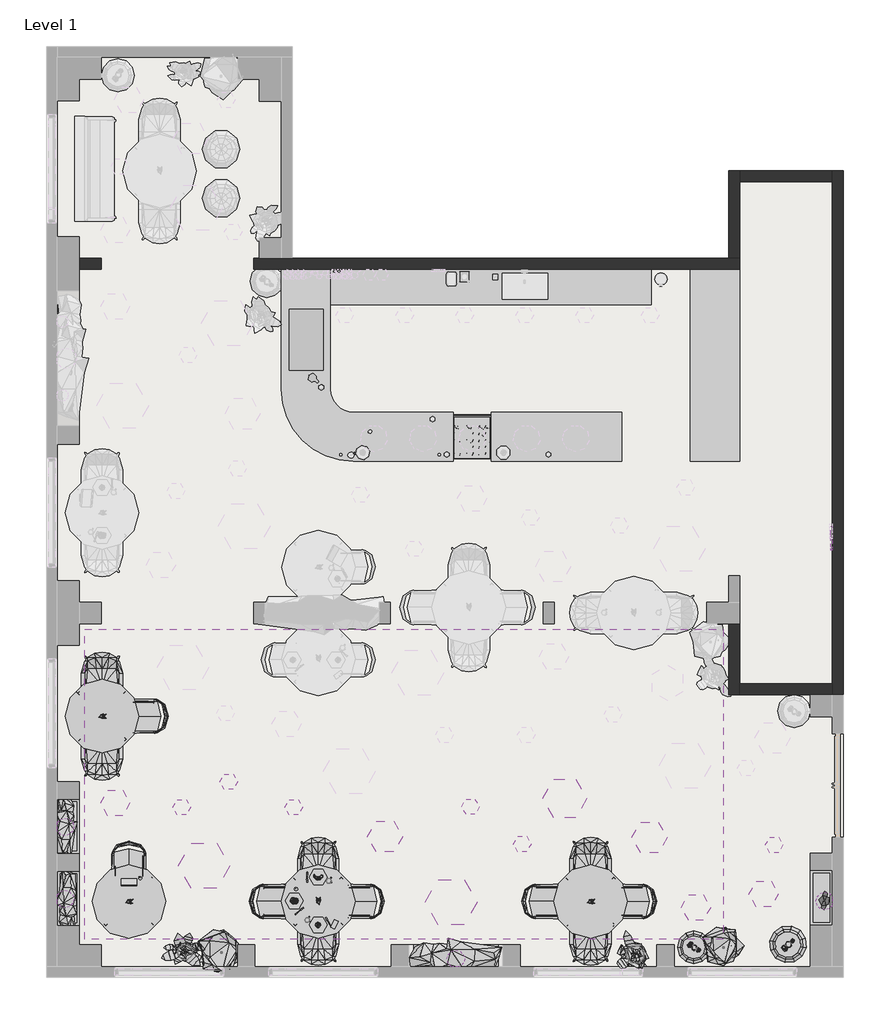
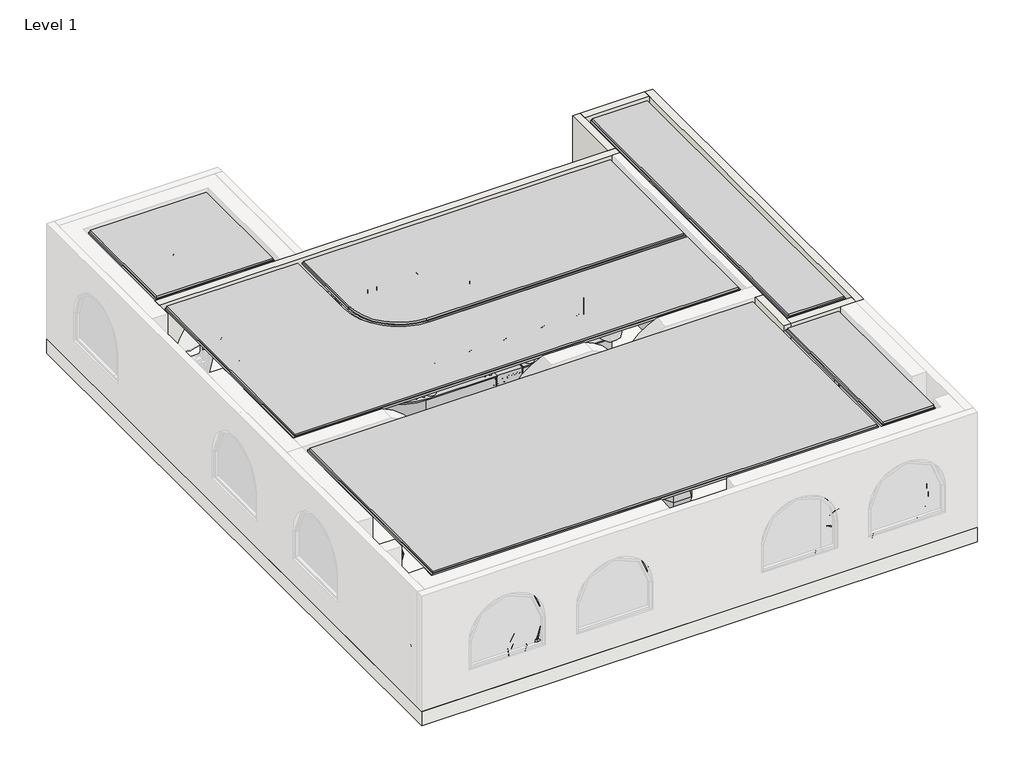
# One storey, part 2 of 5: 69 geographic elements, 6 walls, 4 proxies, 1 slab.
"""IFC4 building model written with IfcOpenShell, lengths in millimetres."""

from ifc_helpers import new_model, si_unit, frame, origin, origin_with_axes, place, context, project, spatial, polyline, circle_curve, outline, extrude, faceted_brep, transform, mapped, element, save
from ifc_brep_helpers import plane_surface, revolved_surface, advanced_brep
from components import generic_models_1_generic_models_1_eb2977bd, generic_models_2_generic_models_2_8f71c89f, generic_models_3_generic_models_3_f53c9cee, generic_models_4_generic_models_4_ffab7143, geographic_element_8ca766f1, geographic_element_748f541f, geographic_element_7c99d2c4, geographic_element_ad5755f3, geographic_element_266ae1ca, geographic_element_bfbed8a8, geographic_element_5726619b, geographic_element_eaedea96, geographic_element_e5fee6ec, geographic_element_ab19c15e, geographic_element_721f793b, geographic_element_a0fb3aef, geographic_element_8a26e685, geographic_element_bc1c03e3, geographic_element_5908e057, enscape_assetdefinition_armchair_052_outdoor_enscape_f294b56b, enscape_assetdefinition_armchair_052_outdoor_enscape_d5c26a59, enscape_assetdefinition_basket_003_enscape_assetdefinition_82603852, enscape_assetdefinition_basket_003_enscape_assetdefinition_e8d1e2aa, enscape_assetdefinition_basket_004_enscape_assetdefinition_14d161dd, enscape_assetdefinition_basket_004_enscape_assetdefinition_f91bcb0a, enscape_assetdefinition_chair_005_enscape_assetdefinition_31156a69, enscape_assetdefinition_cup_002_coffee_enscape_aa947409, enscape_assetdefinition_floor_lamp_016_enscape_4e544922, enscape_assetdefinition_floor_lamp_016_enscape_5eb83b77, enscape_assetdefinition_floor_lamp_016_enscape_559c5179, enscape_assetdefinition_floor_lamp_016_enscape_838fbf4e, enscape_assetdefinition_floor_lamp_016_enscape_ae26f4ef, enscape_assetdefinition_glass_002_cocktail_enscape_3d217cfa, enscape_assetdefinition_plate_002_flat_enscape_c81c6526, enscape_assetdefinition_tablet_005_enscape_assetdefinition_b19993bc, enscape_assetdefinition_vase_048_paper_palm_enscape_02403a3f

model = new_model("IFC4")

# Units and contexts
model_context = context("Model", 3, world=origin())
ifc_project = project(units=[si_unit("LENGTHUNIT", "METRE", prefix="MILLI")], contexts=[model_context])

# Site, building, storey
site = spatial("IfcSite", under=ifc_project)
building = spatial("IfcBuilding", under=site)
storey = spatial("IfcBuildingStorey", under=building, Name="Level 1", Elevation=0.0)

# Proxies
placement = place(None, origin())
generic_models_1_generic_models_1_shape = generic_models_1_generic_models_1_eb2977bd(model_context)
element("IfcBuildingElementProxy", 1, Name="Generic Models 1 : Generic Models 1", ObjectType="Generic Models 1 : Generic Models 1", at=placement, inside=storey, context=model_context, shape_type="MappedRepresentation", body=[
    mapped(generic_models_1_generic_models_1_shape, transform((0.0, 0.0, 0.0), x_axis=(1.0, 0.0, 0.0), y_axis=(0.0, 1.0, 0.0), z_axis=(0.0, 0.0, 1.0))),
])
generic_models_2_generic_models_2_shape = generic_models_2_generic_models_2_8f71c89f(model_context)
element("IfcBuildingElementProxy", 2, Name="Generic Models 2 : Generic Models 2", ObjectType="Generic Models 2 : Generic Models 2", at=placement, inside=storey, context=model_context, shape_type="MappedRepresentation", body=[
    mapped(generic_models_2_generic_models_2_shape, transform((0.0, 0.0, 0.0), x_axis=(1.0, 0.0, 0.0), y_axis=(0.0, 1.0, 0.0), z_axis=(0.0, 0.0, 1.0))),
])
generic_models_3_generic_models_3_shape = generic_models_3_generic_models_3_f53c9cee(model_context)
element("IfcBuildingElementProxy", 3, Name="Generic Models 3 : Generic Models 3", ObjectType="Generic Models 3 : Generic Models 3", at=placement, inside=storey, context=model_context, shape_type="MappedRepresentation", body=[
    mapped(generic_models_3_generic_models_3_shape, transform((0.0, 0.0, 0.0), x_axis=(1.0, 0.0, 0.0), y_axis=(0.0, 1.0, 0.0), z_axis=(0.0, 0.0, 1.0))),
])
generic_models_4_generic_models_4_shape = generic_models_4_generic_models_4_ffab7143(model_context)
element("IfcBuildingElementProxy", 4, Name="Generic Models 4 : Generic Models 4", ObjectType="Generic Models 4 : Generic Models 4", at=placement, inside=storey, context=model_context, shape_type="MappedRepresentation", body=[
    mapped(generic_models_4_generic_models_4_shape, transform((0.0, 0.0, 0.0), x_axis=(1.0, 0.0, 0.0), y_axis=(0.0, 1.0, 0.0), z_axis=(0.0, 0.0, 1.0))),
])

# Geographic elements
geographic_element_shape = geographic_element_8ca766f1(model_context)
element("IfcGeographicElement", 5, ObjectType="Enscape AssetDefinition - Food 027 Pastry : Enscape AssetDefinition - Food 027 Pastry", at=placement, inside=storey, context=model_context, shape_type="MappedRepresentation", body=[
    mapped(geographic_element_shape, transform((16407.6950183, -2706.9076207, 765.0), x_axis=(1.0, 0.0, 0.0), y_axis=(0.0, 1.0, 0.0), z_axis=(0.0, 0.0, 1.0))),
])
geographic_element_2_shape = geographic_element_748f541f(model_context)
element("IfcGeographicElement", 6, ObjectType="Enscape AssetDefinition - Food 024 Pastry : Enscape AssetDefinition - Food 024 Pastry", at=placement, inside=storey, context=model_context, shape_type="MappedRepresentation", body=[
    mapped(geographic_element_2_shape, transform((16414.4580656, -1830.095212, 768.0), x_axis=(1.0, 0.0, 0.0), y_axis=(0.0, 1.0, 0.0), z_axis=(0.0, 0.0, 1.0))),
])
geographic_element_3_shape = geographic_element_7c99d2c4(model_context)
element("IfcGeographicElement", 7, ObjectType="Enscape AssetDefinition - Food 019 Pastry : Enscape AssetDefinition - Food 019 Pastry", at=placement, inside=storey, context=model_context, shape_type="MappedRepresentation", body=[
    mapped(geographic_element_3_shape, transform((15976.0518612, -2267.859418, 765.0), x_axis=(1.0, 0.0, 0.0), y_axis=(0.0, 1.0, 0.0), z_axis=(0.0, 0.0, 1.0))),
])
geographic_element_4_shape = geographic_element_ad5755f3(model_context)
element("IfcGeographicElement", 8, ObjectType="Enscape AssetDefinition - Ease Round Table : Enscape AssetDefinition - Ease Round Table", at=placement, inside=storey, context=model_context, shape_type="MappedRepresentation", body=[
    mapped(geographic_element_4_shape, transform((12451.4780503, 1119.6966722, 0.0), x_axis=(1.0, 0.0, 0.0), y_axis=(0.0, 1.0, 0.0), z_axis=(0.0, 0.0, 1.0))),
])
element("IfcGeographicElement", 9, ObjectType="Enscape AssetDefinition - Ease Round Table : Enscape AssetDefinition - Ease Round Table", at=placement, inside=storey, context=model_context, shape_type="MappedRepresentation", body=[
    mapped(geographic_element_4_shape, transform((16414.4580656, -2277.4640636, 0.0), x_axis=(1.0, 0.0, 0.0), y_axis=(0.0, 1.0, 0.0), z_axis=(0.0, 0.0, 1.0))),
])
element("IfcGeographicElement", 10, ObjectType="Enscape AssetDefinition - Ease Round Table : Enscape AssetDefinition - Ease Round Table", at=placement, inside=storey, context=model_context, shape_type="MappedRepresentation", body=[
    mapped(geographic_element_4_shape, transform((21404.7440445, -2277.4640636, 0.0), x_axis=(1.0, 0.0, 0.0), y_axis=(0.0, 1.0, 0.0), z_axis=(0.0, 0.0, 1.0))),
])
element("IfcGeographicElement", 11, ObjectType="Enscape AssetDefinition - Ease Round Table : Enscape AssetDefinition - Ease Round Table", at=placement, inside=storey, context=model_context, shape_type="MappedRepresentation", body=[
    mapped(geographic_element_4_shape, transform((12945.1172493, -2277.4640636, 0.0), x_axis=(-1.0, 0.0, 0.0), y_axis=(0.0, -1.0, 0.0), z_axis=(0.0, 0.0, 1.0))),
])
geographic_element_5_shape = geographic_element_266ae1ca(model_context)
element("IfcGeographicElement", 12, ObjectType="Enscape AssetDefinition - Potted Plant 250 Snake Plant : Enscape AssetDefinition - Potted Plant 250 Snake Plant", at=placement, inside=storey, context=model_context, shape_type="MappedRepresentation", body=[
    mapped(geographic_element_5_shape, transform((18951.3231096, -3268.9374621, 590.0), x_axis=(0.0, 1.0, 0.0), y_axis=(-1.0, 0.0, 0.0), z_axis=(0.0, 0.0, 1.0))),
])
geographic_element_6_shape = geographic_element_bfbed8a8(model_context)
element("IfcGeographicElement", 13, ObjectType="Enscape AssetDefinition - Potted Plant 250 Snake Plant : Enscape AssetDefinition - Potted Plant 250 Snake Plant 4", at=placement, inside=storey, context=model_context, shape_type="MappedRepresentation", body=[
    mapped(geographic_element_6_shape, transform((11781.7394271, -922.8701885, 554.8985655), x_axis=(1.0, 0.0, 0.0), y_axis=(0.0, 1.0, 0.0), z_axis=(0.0, 0.0, 1.0))),
])
element("IfcGeographicElement", 14, ObjectType="Enscape AssetDefinition - Potted Plant 250 Snake Plant : Enscape AssetDefinition - Potted Plant 250 Snake Plant 4", at=placement, inside=storey, context=model_context, shape_type="MappedRepresentation", body=[
    mapped(geographic_element_6_shape, transform((11821.7394271, -2242.8701885, 554.8985655), x_axis=(-1.0, 0.0, 0.0), y_axis=(0.0, -1.0, 0.0), z_axis=(0.0, 0.0, 1.0))),
])
geographic_element_7_shape = geographic_element_5726619b(model_context)
element("IfcGeographicElement", 15, ObjectType="Enscape AssetDefinition - Potted Plant 132 Cactus : Enscape AssetDefinition - Potted Plant 132 Cactus 2", at=placement, inside=storey, context=model_context, shape_type="MappedRepresentation", body=[
    mapped(geographic_element_7_shape, transform((25689.064034, -2261.4063526, 395.0), x_axis=(0.0, 1.0, 0.0), y_axis=(-1.0, 0.0, 0.0), z_axis=(0.0, 0.0, 1.0))),
])
geographic_element_8_shape = geographic_element_eaedea96(model_context)
element("IfcGeographicElement", 16, ObjectType="Enscape AssetDefinition - Potted Plant 002 Cactus : Enscape AssetDefinition - Potted Plant 002 Cactus", at=placement, inside=storey, context=model_context, shape_type="MappedRepresentation", body=[
    mapped(geographic_element_8_shape, transform((23298.7213762, -3116.0127286, 0.0), x_axis=(0.8191520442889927, -0.5735764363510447, 0.0), y_axis=(0.5735764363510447, 0.8191520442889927, 0.0), z_axis=(0.0, 0.0, 1.0))),
])
geographic_element_9_shape = geographic_element_e5fee6ec(model_context)
element("IfcGeographicElement", 17, ObjectType="Enscape AssetDefinition - Potted Plant 119 Strelitzia Nicolai : Enscape AssetDefinition - Potted Plant 119 Strelitzia Nicolai", at=placement, inside=storey, context=model_context, shape_type="MappedRepresentation", body=[
    mapped(geographic_element_9_shape, transform((22223.7182313, -3246.4042959, 0.0), x_axis=(-0.32556815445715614, 0.9455185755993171, 0.0), y_axis=(-0.9455185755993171, -0.32556815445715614, 0.0), z_axis=(0.0, 0.0, 1.0))),
])
geographic_element_10_shape = geographic_element_ab19c15e(model_context)
element("IfcGeographicElement", 18, ObjectType="Enscape AssetDefinition - Potted Plant 024 Fiddle-Leaf Fig : Enscape AssetDefinition - Potted Plant 024 Fiddle-Leaf Fig 2", at=placement, inside=storey, context=model_context, shape_type="MappedRepresentation", body=[
    mapped(geographic_element_10_shape, transform((14638.659147, -3209.6399174, 0.0), x_axis=(1.0, 0.0, 0.0), y_axis=(0.0, 1.0, 0.0), z_axis=(0.0, 0.0, 1.0))),
])
geographic_element_11_shape = geographic_element_721f793b(model_context)
element("IfcGeographicElement", 19, ObjectType="Enscape AssetDefinition - Potted Plant 002 Cactus : Enscape AssetDefinition - Potted Plant 002 Cactus 2", at=placement, inside=storey, context=model_context, shape_type="MappedRepresentation", body=[
    mapped(geographic_element_11_shape, transform((25023.8130709, -3072.9981873, 0.0), x_axis=(0.7193398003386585, 0.6946583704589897, 0.0), y_axis=(-0.6946583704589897, 0.7193398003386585, 0.0), z_axis=(0.0, 0.0, 1.0))),
])
geographic_element_12_shape = geographic_element_a0fb3aef(model_context)
element("IfcGeographicElement", 20, ObjectType="Enscape AssetDefinition - Potted Plant 119 Strelitzia Nicolai : Enscape AssetDefinition - Potted Plant 119 Strelitzia Nicolai 4", at=placement, inside=storey, context=model_context, shape_type="MappedRepresentation", body=[
    mapped(geographic_element_12_shape, transform((13974.8004368, -3204.9245779, 0.0), x_axis=(0.8644815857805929, -0.5026644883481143, 0.0), y_axis=(0.5026644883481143, 0.8644815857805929, 0.0), z_axis=(0.0, 0.0, 1.0))),
])
geographic_element_13_shape = geographic_element_8a26e685(model_context)
element("IfcGeographicElement", 21, ObjectType="Enscape AssetDefinition - Potted Plant 024 Fiddle-Leaf Fig : Enscape AssetDefinition - Potted Plant 024 Fiddle-Leaf Fig 3", at=placement, inside=storey, context=model_context, shape_type="MappedRepresentation", body=[
    mapped(geographic_element_13_shape, transform((23838.6260552, -3116.0127286, 0.0), x_axis=(1.0, 0.0, 0.0), y_axis=(0.0, 1.0, 0.0), z_axis=(0.0, 0.0, 1.0))),
])
geographic_element_14_shape = geographic_element_bc1c03e3(model_context)
element("IfcGeographicElement", 22, ObjectType="Enscape AssetDefinition - Smartphone 002 : Enscape AssetDefinition - Smartphone 002", at=placement, inside=storey, context=model_context, shape_type="MappedRepresentation", body=[
    mapped(geographic_element_14_shape, transform((16711.9147843, -2692.2452852, 762.0), x_axis=(0.8910065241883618, -0.4539904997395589, 0.0), y_axis=(0.4539904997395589, 0.8910065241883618, 0.0), z_axis=(0.0, 0.0, 1.0))),
])
geographic_element_15_shape = geographic_element_5908e057(model_context)
element("IfcGeographicElement", 23, ObjectType="Enscape AssetDefinition - Cutlery 001 Fork : Enscape AssetDefinition - Cutlery 001 Fork", at=placement, inside=storey, context=model_context, shape_type="MappedRepresentation", body=[
    mapped(geographic_element_15_shape, transform((16210.6312922, -1830.095212, 762.0), x_axis=(-1.0, 0.0, 0.0), y_axis=(0.0, -1.0, 0.0), z_axis=(0.0, 0.0, 1.0))),
])
element("IfcGeographicElement", 24, ObjectType="Enscape AssetDefinition - Cutlery 001 Fork : Enscape AssetDefinition - Cutlery 001 Fork", at=placement, inside=storey, context=model_context, shape_type="MappedRepresentation", body=[
    mapped(geographic_element_15_shape, transform((16066.17958, -2454.2412999, 762.0), x_axis=(0.6427876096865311, -0.766044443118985, 0.0), y_axis=(0.766044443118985, 0.6427876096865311, 0.0), z_axis=(0.0, 0.0, 1.0))),
])
element("IfcGeographicElement", 25, ObjectType="Enscape AssetDefinition - Cutlery 001 Fork : Enscape AssetDefinition - Cutlery 001 Fork", at=placement, inside=storey, context=model_context, shape_type="MappedRepresentation", body=[
    mapped(geographic_element_15_shape, transform((16602.2749516, -2656.0377428, 762.0), x_axis=(0.857563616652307, 0.5143779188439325, 0.0), y_axis=(-0.5143779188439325, 0.857563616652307, 0.0), z_axis=(0.0, 0.0, 1.0))),
])
enscape_assetdefinition_armchair_052_outdoor_enscape_shape = enscape_assetdefinition_armchair_052_outdoor_enscape_f294b56b(model_context)
element("IfcGeographicElement", 26, ObjectType="Enscape AssetDefinition - Armchair 052 Outdoor : Enscape AssetDefinition - Armchair 052 Outdoor", at=placement, inside=storey, context=model_context, shape_type="MappedRepresentation", body=[
    mapped(enscape_assetdefinition_armchair_052_outdoor_enscape_shape, transform((12451.4780503, 1795.5016427, 0.0), x_axis=(1.0, 0.0, 0.0), y_axis=(0.0, 1.0, 0.0), z_axis=(0.0, 0.0, 1.0))),
])
element("IfcGeographicElement", 27, ObjectType="Enscape AssetDefinition - Armchair 052 Outdoor : Enscape AssetDefinition - Armchair 052 Outdoor", at=placement, inside=storey, context=model_context, shape_type="MappedRepresentation", body=[
    mapped(enscape_assetdefinition_armchair_052_outdoor_enscape_shape, transform((16414.4580656, -1601.659093, 0.0), x_axis=(1.0, 0.0, 0.0), y_axis=(0.0, 1.0, 0.0), z_axis=(0.0, 0.0, 1.0))),
])
element("IfcGeographicElement", 28, ObjectType="Enscape AssetDefinition - Armchair 052 Outdoor : Enscape AssetDefinition - Armchair 052 Outdoor", at=placement, inside=storey, context=model_context, shape_type="MappedRepresentation", body=[
    mapped(enscape_assetdefinition_armchair_052_outdoor_enscape_shape, transform((21404.7440445, -1601.659093, 0.0), x_axis=(1.0, 0.0, 0.0), y_axis=(0.0, 1.0, 0.0), z_axis=(0.0, 0.0, 1.0))),
])
enscape_assetdefinition_armchair_052_outdoor_enscape_2_shape = enscape_assetdefinition_armchair_052_outdoor_enscape_d5c26a59(model_context)
element("IfcGeographicElement", 29, ObjectType="Enscape AssetDefinition - Armchair 052 Outdoor : Enscape AssetDefinition - Armchair 052 Outdoor", at=placement, inside=storey, context=model_context, shape_type="MappedRepresentation", body=[
    mapped(enscape_assetdefinition_armchair_052_outdoor_enscape_2_shape, transform((12451.4780503, 443.8917016, 0.0), x_axis=(1.0, 0.0, 0.0), y_axis=(0.0, 1.0, 0.0), z_axis=(0.0, 0.0, 1.0))),
])
element("IfcGeographicElement", 30, ObjectType="Enscape AssetDefinition - Armchair 052 Outdoor : Enscape AssetDefinition - Armchair 052 Outdoor", at=placement, inside=storey, context=model_context, shape_type="MappedRepresentation", body=[
    mapped(enscape_assetdefinition_armchair_052_outdoor_enscape_2_shape, transform((16414.4580656, -2953.2690341, 0.0), x_axis=(1.0, 0.0, 0.0), y_axis=(0.0, 1.0, 0.0), z_axis=(0.0, 0.0, 1.0))),
])
element("IfcGeographicElement", 31, ObjectType="Enscape AssetDefinition - Armchair 052 Outdoor : Enscape AssetDefinition - Armchair 052 Outdoor", at=placement, inside=storey, context=model_context, shape_type="MappedRepresentation", body=[
    mapped(enscape_assetdefinition_armchair_052_outdoor_enscape_2_shape, transform((21404.7440445, -2953.2690341, 0.0), x_axis=(1.0, 0.0, 0.0), y_axis=(0.0, 1.0, 0.0), z_axis=(0.0, 0.0, 1.0))),
])
enscape_assetdefinition_basket_003_enscape_assetdefinition_shape = enscape_assetdefinition_basket_003_enscape_assetdefinition_82603852(model_context)
element("IfcGeographicElement", 32, ObjectType="Enscape AssetDefinition - Basket 003 : Enscape AssetDefinition - Basket 003 2", at=placement, inside=storey, context=model_context, shape_type="MappedRepresentation", body=[
    mapped(enscape_assetdefinition_basket_003_enscape_assetdefinition_shape, transform((23298.7213489, -3116.0127286, 0.0), x_axis=(1.0, 0.0, 0.0), y_axis=(0.0, 1.0, 0.0), z_axis=(0.0, 0.0, 1.0))),
])
enscape_assetdefinition_basket_003_enscape_assetdefinition_2_shape = enscape_assetdefinition_basket_003_enscape_assetdefinition_e8d1e2aa(model_context)
element("IfcGeographicElement", 33, ObjectType="Enscape AssetDefinition - Basket 003 : Enscape AssetDefinition - Basket 003 2 2", at=placement, inside=storey, context=model_context, shape_type="MappedRepresentation", body=[
    mapped(enscape_assetdefinition_basket_003_enscape_assetdefinition_2_shape, transform((25023.8130657, -3062.9982141, 0.0), x_axis=(0.19080899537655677, 0.9816271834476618, 0.0), y_axis=(-0.9816271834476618, 0.19080899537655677, 0.0), z_axis=(0.0, 0.0, 1.0))),
])
enscape_assetdefinition_basket_004_enscape_assetdefinition_shape = enscape_assetdefinition_basket_004_enscape_assetdefinition_14d161dd(model_context)
element("IfcGeographicElement", 34, ObjectType="Enscape AssetDefinition - Basket 004 : Enscape AssetDefinition - Basket 004", at=placement, inside=storey, context=model_context, shape_type="MappedRepresentation", body=[
    mapped(enscape_assetdefinition_basket_004_enscape_assetdefinition_shape, transform((14635.1576528, -3209.6399174, 0.0), x_axis=(1.0, 0.0, 0.0), y_axis=(0.0, 1.0, 0.0), z_axis=(0.0, 0.0, 1.0))),
])
element("IfcGeographicElement", 35, ObjectType="Enscape AssetDefinition - Basket 004 : Enscape AssetDefinition - Basket 004", at=placement, inside=storey, context=model_context, shape_type="MappedRepresentation", body=[
    mapped(enscape_assetdefinition_basket_004_enscape_assetdefinition_shape, transform((22197.0659112, -3258.0006663, 0.0), x_axis=(1.0, 0.0, 0.0), y_axis=(0.0, 1.0, 0.0), z_axis=(0.0, 0.0, 1.0))),
])
element("IfcGeographicElement", 36, ObjectType="Enscape AssetDefinition - Basket 004 : Enscape AssetDefinition - Basket 004", at=placement, inside=storey, context=model_context, shape_type="MappedRepresentation", body=[
    mapped(enscape_assetdefinition_basket_004_enscape_assetdefinition_shape, transform((23835.124561, -3116.0127286, 0.0), x_axis=(1.0, 0.0, 0.0), y_axis=(0.0, 1.0, 0.0), z_axis=(0.0, 0.0, 1.0))),
])
enscape_assetdefinition_basket_004_enscape_assetdefinition_2_shape = enscape_assetdefinition_basket_004_enscape_assetdefinition_f91bcb0a(model_context)
element("IfcGeographicElement", 37, ObjectType="Enscape AssetDefinition - Basket 004 : Enscape AssetDefinition - Basket 004 3", at=placement, inside=storey, context=model_context, shape_type="MappedRepresentation", body=[
    mapped(enscape_assetdefinition_basket_004_enscape_assetdefinition_2_shape, transform((13999.3092887, -3189.8384146, 0.0), x_axis=(1.0, 0.0, 0.0), y_axis=(0.0, 1.0, 0.0), z_axis=(0.0, 0.0, 1.0))),
])
enscape_assetdefinition_chair_005_enscape_assetdefinition_shape = enscape_assetdefinition_chair_005_enscape_assetdefinition_31156a69(model_context)
element("IfcGeographicElement", 38, ObjectType="Enscape AssetDefinition - Chair 005 : Enscape AssetDefinition - Chair 005", at=placement, inside=storey, context=model_context, shape_type="MappedRepresentation", body=[
    mapped(enscape_assetdefinition_chair_005_enscape_assetdefinition_shape, transform((13236.6309745, 1119.6966722, 0.0), x_axis=(0.0, -1.0, 0.0), y_axis=(1.0, 0.0, 0.0), z_axis=(0.0, 0.0, 1.0))),
])
element("IfcGeographicElement", 39, ObjectType="Enscape AssetDefinition - Chair 005 : Enscape AssetDefinition - Chair 005", at=placement, inside=storey, context=model_context, shape_type="MappedRepresentation", body=[
    mapped(enscape_assetdefinition_chair_005_enscape_assetdefinition_shape, transform((15579.6109897, -2277.4640636, 0.0), x_axis=(0.0, 1.0, 0.0), y_axis=(-1.0, 0.0, 0.0), z_axis=(0.0, 0.0, 1.0))),
])
element("IfcGeographicElement", 40, ObjectType="Enscape AssetDefinition - Chair 005 : Enscape AssetDefinition - Chair 005", at=placement, inside=storey, context=model_context, shape_type="MappedRepresentation", body=[
    mapped(enscape_assetdefinition_chair_005_enscape_assetdefinition_shape, transform((17199.6109897, -2277.4640636, 0.0), x_axis=(0.0, -1.0, 0.0), y_axis=(1.0, 0.0, 0.0), z_axis=(0.0, 0.0, 1.0))),
])
element("IfcGeographicElement", 41, ObjectType="Enscape AssetDefinition - Chair 005 : Enscape AssetDefinition - Chair 005", at=placement, inside=storey, context=model_context, shape_type="MappedRepresentation", body=[
    mapped(enscape_assetdefinition_chair_005_enscape_assetdefinition_shape, transform((20569.8969687, -2277.4640636, 0.0), x_axis=(0.0, 1.0, 0.0), y_axis=(-1.0, 0.0, 0.0), z_axis=(0.0, 0.0, 1.0))),
])
element("IfcGeographicElement", 42, ObjectType="Enscape AssetDefinition - Chair 005 : Enscape AssetDefinition - Chair 005", at=placement, inside=storey, context=model_context, shape_type="MappedRepresentation", body=[
    mapped(enscape_assetdefinition_chair_005_enscape_assetdefinition_shape, transform((22189.8969687, -2277.4640636, 0.0), x_axis=(0.0, -1.0, 0.0), y_axis=(1.0, 0.0, 0.0), z_axis=(0.0, 0.0, 1.0))),
])
element("IfcGeographicElement", 43, ObjectType="Enscape AssetDefinition - Chair 005 : Enscape AssetDefinition - Chair 005", at=placement, inside=storey, context=model_context, shape_type="MappedRepresentation", body=[
    mapped(enscape_assetdefinition_chair_005_enscape_assetdefinition_shape, transform((12945.1172493, -1601.659093, 0.0), x_axis=(1.0, 0.0, 0.0), y_axis=(0.0, 1.0, 0.0), z_axis=(0.0, 0.0, 1.0))),
])
enscape_assetdefinition_cup_002_coffee_enscape_shape = enscape_assetdefinition_cup_002_coffee_enscape_aa947409(model_context)
element("IfcGeographicElement", 44, ObjectType="Enscape AssetDefinition - Cup 002 Coffee : Enscape AssetDefinition - Cup 002 Coffee", at=placement, inside=storey, context=model_context, shape_type="MappedRepresentation", body=[
    mapped(enscape_assetdefinition_cup_002_coffee_enscape_shape, transform((16611.0813311, -1899.8251583, 762.0), x_axis=(0.5591929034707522, 0.8290375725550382, 0.0), y_axis=(-0.8290375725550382, 0.5591929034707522, 0.0), z_axis=(0.0, 0.0, 1.0))),
])
element("IfcGeographicElement", 45, ObjectType="Enscape AssetDefinition - Cup 002 Coffee : Enscape AssetDefinition - Cup 002 Coffee", at=placement, inside=storey, context=model_context, shape_type="MappedRepresentation", body=[
    mapped(enscape_assetdefinition_cup_002_coffee_enscape_shape, transform((16213.5374425, -2617.0133181, 762.0), x_axis=(0.5591929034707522, 0.8290375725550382, 0.0), y_axis=(-0.8290375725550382, 0.5591929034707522, 0.0), z_axis=(0.0, 0.0, 1.0))),
])
enscape_assetdefinition_floor_lamp_016_enscape_shape = enscape_assetdefinition_floor_lamp_016_enscape_4e544922(model_context)
element("IfcGeographicElement", 46, ObjectType="Enscape AssetDefinition - Floor Lamp 016 : Enscape AssetDefinition - Floor Lamp 016", at=placement, inside=storey, context=model_context, shape_type="MappedRepresentation", body=[
    mapped(enscape_assetdefinition_floor_lamp_016_enscape_shape, transform((14320.1905835, -1624.9905015, 3100.0), x_axis=(-1.0, 0.0, 0.0), y_axis=(0.0, 1.0, 0.0), z_axis=(0.0, 0.0, -1.0))),
])
element("IfcGeographicElement", 47, ObjectType="Enscape AssetDefinition - Floor Lamp 016 : Enscape AssetDefinition - Floor Lamp 016", at=placement, inside=storey, context=model_context, shape_type="MappedRepresentation", body=[
    mapped(enscape_assetdefinition_floor_lamp_016_enscape_shape, transform((18855.1576528, -2289.6399174, 3100.0), x_axis=(-1.0, 0.0, 0.0), y_axis=(0.0, 1.0, 0.0), z_axis=(0.0, 0.0, -1.0))),
])
enscape_assetdefinition_floor_lamp_016_enscape_2_shape = enscape_assetdefinition_floor_lamp_016_enscape_5eb83b77(model_context)
element("IfcGeographicElement", 48, ObjectType="Enscape AssetDefinition - Floor Lamp 016 : Enscape AssetDefinition - Floor Lamp 016 2", at=placement, inside=storey, context=model_context, shape_type="MappedRepresentation", body=[
    mapped(enscape_assetdefinition_floor_lamp_016_enscape_2_shape, transform((23335.1576528, -2389.6399174, 3100.0), x_axis=(-1.0, 0.0, 0.0), y_axis=(0.0, 1.0, 0.0), z_axis=(0.0, 0.0, -1.0))),
])
element("IfcGeographicElement", 49, ObjectType="Enscape AssetDefinition - Floor Lamp 016 : Enscape AssetDefinition - Floor Lamp 016 2", at=placement, inside=storey, context=model_context, shape_type="MappedRepresentation", body=[
    mapped(enscape_assetdefinition_floor_lamp_016_enscape_2_shape, transform((24577.6451298, -2143.0974626, 3100.0), x_axis=(-1.0, 0.0, 0.0), y_axis=(0.0, 1.0, 0.0), z_axis=(0.0, 0.0, -1.0))),
])
element("IfcGeographicElement", 50, ObjectType="Enscape AssetDefinition - Floor Lamp 016 : Enscape AssetDefinition - Floor Lamp 016 2", at=placement, inside=storey, context=model_context, shape_type="MappedRepresentation", body=[
    mapped(enscape_assetdefinition_floor_lamp_016_enscape_2_shape, transform((12694.4283049, -473.0202511, 3100.0), x_axis=(-1.0, 0.0, 0.0), y_axis=(0.0, 1.0, 0.0), z_axis=(0.0, 0.0, -1.0))),
])
enscape_assetdefinition_floor_lamp_016_enscape_3_shape = enscape_assetdefinition_floor_lamp_016_enscape_559c5179(model_context)
element("IfcGeographicElement", 51, ObjectType="Enscape AssetDefinition - Floor Lamp 016 : Enscape AssetDefinition - Floor Lamp 016 3", at=placement, inside=storey, context=model_context, shape_type="MappedRepresentation", body=[
    mapped(enscape_assetdefinition_floor_lamp_016_enscape_3_shape, transform((11635.1576528, -909.6399174, 2200.0), x_axis=(0.0, 1.0, 0.0), y_axis=(0.0, 0.0, 1.0), z_axis=(1.0, 0.0, 0.0))),
])
element("IfcGeographicElement", 52, ObjectType="Enscape AssetDefinition - Floor Lamp 016 : Enscape AssetDefinition - Floor Lamp 016 3", at=placement, inside=storey, context=model_context, shape_type="MappedRepresentation", body=[
    mapped(enscape_assetdefinition_floor_lamp_016_enscape_3_shape, transform((11635.1576528, -2234.6399174, 2200.0), x_axis=(0.0, 1.0, 0.0), y_axis=(0.0, 0.0, 1.0), z_axis=(1.0, 0.0, 0.0))),
])
element("IfcGeographicElement", 53, ObjectType="Enscape AssetDefinition - Floor Lamp 016 : Enscape AssetDefinition - Floor Lamp 016 3", at=placement, inside=storey, context=model_context, shape_type="MappedRepresentation", body=[
    mapped(enscape_assetdefinition_floor_lamp_016_enscape_3_shape, transform((18935.1576528, -3469.6399174, 2200.0), x_axis=(-1.0, 0.0, 0.0), y_axis=(0.0, 0.0, 1.0), z_axis=(0.0, 1.0, 0.0))),
])
element("IfcGeographicElement", 54, ObjectType="Enscape AssetDefinition - Floor Lamp 016 : Enscape AssetDefinition - Floor Lamp 016 3", at=placement, inside=storey, context=model_context, shape_type="MappedRepresentation", body=[
    mapped(enscape_assetdefinition_floor_lamp_016_enscape_3_shape, transform((25835.1576528, -2269.6399174, 2500.0), x_axis=(0.0, -1.0, 0.0), y_axis=(0.0, 0.0, 1.0), z_axis=(-1.0, 0.0, 0.0))),
])
element("IfcGeographicElement", 55, ObjectType="Enscape AssetDefinition - Floor Lamp 016 : Enscape AssetDefinition - Floor Lamp 016 3", at=placement, inside=storey, context=model_context, shape_type="MappedRepresentation", body=[
    mapped(enscape_assetdefinition_floor_lamp_016_enscape_3_shape, transform((14773.265872, -82.5976877, 3100.0), x_axis=(-1.0, 0.0, 0.0), y_axis=(0.0, 1.0, 0.0), z_axis=(0.0, 0.0, -1.0))),
])
element("IfcGeographicElement", 56, ObjectType="Enscape AssetDefinition - Floor Lamp 016 : Enscape AssetDefinition - Floor Lamp 016 3", at=placement, inside=storey, context=model_context, shape_type="MappedRepresentation", body=[
    mapped(enscape_assetdefinition_floor_lamp_016_enscape_3_shape, transform((20153.0776761, -1226.1119872, 3100.0), x_axis=(-1.0, 0.0, 0.0), y_axis=(0.0, 1.0, 0.0), z_axis=(0.0, 0.0, -1.0))),
])
element("IfcGeographicElement", 57, ObjectType="Enscape AssetDefinition - Floor Lamp 016 : Enscape AssetDefinition - Floor Lamp 016 3", at=placement, inside=storey, context=model_context, shape_type="MappedRepresentation", body=[
    mapped(enscape_assetdefinition_floor_lamp_016_enscape_3_shape, transform((24769.603995, -1241.9885448, 3100.0), x_axis=(-1.0, 0.0, 0.0), y_axis=(0.0, 1.0, 0.0), z_axis=(0.0, 0.0, -1.0))),
])
element("IfcGeographicElement", 58, ObjectType="Enscape AssetDefinition - Floor Lamp 016 : Enscape AssetDefinition - Floor Lamp 016 3", at=placement, inside=storey, context=model_context, shape_type="MappedRepresentation", body=[
    mapped(enscape_assetdefinition_floor_lamp_016_enscape_3_shape, transform((19206.2066295, -542.2324285, 3100.0), x_axis=(-1.0, 0.0, 0.0), y_axis=(0.0, 1.0, 0.0), z_axis=(0.0, 0.0, -1.0))),
])
element("IfcGeographicElement", 59, ObjectType="Enscape AssetDefinition - Floor Lamp 016 : Enscape AssetDefinition - Floor Lamp 016 3", at=placement, inside=storey, context=model_context, shape_type="MappedRepresentation", body=[
    mapped(enscape_assetdefinition_floor_lamp_016_enscape_3_shape, transform((13913.834642, -550.1401721, 3100.0), x_axis=(-1.0, 0.0, 0.0), y_axis=(0.0, 1.0, 0.0), z_axis=(0.0, 0.0, -1.0))),
])
element("IfcGeographicElement", 60, ObjectType="Enscape AssetDefinition - Floor Lamp 016 : Enscape AssetDefinition - Floor Lamp 016 3", at=placement, inside=storey, context=model_context, shape_type="MappedRepresentation", body=[
    mapped(enscape_assetdefinition_floor_lamp_016_enscape_3_shape, transform((15965.6522561, -550.1401721, 3100.0), x_axis=(-1.0, 0.0, 0.0), y_axis=(0.0, 1.0, 0.0), z_axis=(0.0, 0.0, -1.0))),
])
enscape_assetdefinition_floor_lamp_016_enscape_4_shape = enscape_assetdefinition_floor_lamp_016_enscape_838fbf4e(model_context)
element("IfcGeographicElement", 61, ObjectType="Enscape AssetDefinition - Floor Lamp 016 : Enscape AssetDefinition - Floor Lamp 016 3 2 2", at=placement, inside=storey, context=model_context, shape_type="MappedRepresentation", body=[
    mapped(enscape_assetdefinition_floor_lamp_016_enscape_4_shape, transform((17635.1576528, -1089.6399174, 3100.0), x_axis=(-1.0, 0.0, 0.0), y_axis=(0.0, 1.0, 0.0), z_axis=(0.0, 0.0, -1.0))),
])
element("IfcGeographicElement", 62, ObjectType="Enscape AssetDefinition - Floor Lamp 016 : Enscape AssetDefinition - Floor Lamp 016 3 2 2", at=placement, inside=storey, context=model_context, shape_type="MappedRepresentation", body=[
    mapped(enscape_assetdefinition_floor_lamp_016_enscape_4_shape, transform((22486.0036632, -1105.0475409, 3100.0), x_axis=(-1.0, 0.0, 0.0), y_axis=(0.0, 1.0, 0.0), z_axis=(0.0, 0.0, -1.0))),
])
enscape_assetdefinition_floor_lamp_016_enscape_5_shape = enscape_assetdefinition_floor_lamp_016_enscape_ae26f4ef(model_context)
element("IfcGeographicElement", 63, ObjectType="Enscape AssetDefinition - Floor Lamp 016 : Enscape AssetDefinition - Floor Lamp 016 3 2 2 2", at=placement, inside=storey, context=model_context, shape_type="MappedRepresentation", body=[
    mapped(enscape_assetdefinition_floor_lamp_016_enscape_5_shape, transform((20935.1576528, -389.6399174, 3100.0), x_axis=(-1.0, 0.0, 0.0), y_axis=(0.0, 1.0, 0.0), z_axis=(0.0, 0.0, -1.0))),
])
enscape_assetdefinition_glass_002_cocktail_enscape_shape = enscape_assetdefinition_glass_002_cocktail_enscape_3d217cfa(model_context)
element("IfcGeographicElement", 64, ObjectType="Enscape AssetDefinition - Glass 002 Cocktail : Enscape AssetDefinition - Glass 002 Cocktail", at=placement, inside=storey, context=model_context, shape_type="MappedRepresentation", body=[
    mapped(enscape_assetdefinition_glass_002_cocktail_enscape_shape, transform((13154.4986003, -1850.563875, 762.0), x_axis=(0.32556815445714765, -0.94551857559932, 0.0), y_axis=(0.94551857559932, 0.32556815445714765, 0.0), z_axis=(0.0, 0.0, 1.0))),
])
element("IfcGeographicElement", 65, ObjectType="Enscape AssetDefinition - Glass 002 Cocktail : Enscape AssetDefinition - Glass 002 Cocktail", at=placement, inside=storey, context=model_context, shape_type="MappedRepresentation", body=[
    mapped(enscape_assetdefinition_glass_002_cocktail_enscape_shape, transform((16007.531784, -2050.0673899, 762.0), x_axis=(0.32556815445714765, -0.94551857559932, 0.0), y_axis=(0.94551857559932, 0.32556815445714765, 0.0), z_axis=(0.0, 0.0, 1.0))),
])
enscape_assetdefinition_plate_002_flat_enscape_shape = enscape_assetdefinition_plate_002_flat_enscape_c81c6526(model_context)
element("IfcGeographicElement", 66, ObjectType="Enscape AssetDefinition - Plate 002 Flat : Enscape AssetDefinition - Plate 002 Flat", at=placement, inside=storey, context=model_context, shape_type="MappedRepresentation", body=[
    mapped(enscape_assetdefinition_plate_002_flat_enscape_shape, transform((16414.4580656, -1830.095212, 762.0), x_axis=(1.0, 0.0, 0.0), y_axis=(0.0, 1.0, 0.0), z_axis=(0.0, 0.0, 1.0))),
])
element("IfcGeographicElement", 67, ObjectType="Enscape AssetDefinition - Plate 002 Flat : Enscape AssetDefinition - Plate 002 Flat", at=placement, inside=storey, context=model_context, shape_type="MappedRepresentation", body=[
    mapped(enscape_assetdefinition_plate_002_flat_enscape_shape, transform((15976.0518612, -2268.5014164, 762.0), x_axis=(1.0, 0.0, 0.0), y_axis=(0.0, 1.0, 0.0), z_axis=(0.0, 0.0, 1.0))),
])
element("IfcGeographicElement", 68, ObjectType="Enscape AssetDefinition - Plate 002 Flat : Enscape AssetDefinition - Plate 002 Flat", at=placement, inside=storey, context=model_context, shape_type="MappedRepresentation", body=[
    mapped(enscape_assetdefinition_plate_002_flat_enscape_shape, transform((16414.4580656, -2706.9076207, 762.0), x_axis=(1.0, 0.0, 0.0), y_axis=(0.0, 1.0, 0.0), z_axis=(0.0, 0.0, 1.0))),
])
enscape_assetdefinition_tablet_005_enscape_assetdefinition_shape = enscape_assetdefinition_tablet_005_enscape_assetdefinition_b19993bc(model_context)
element("IfcGeographicElement", 69, ObjectType="Enscape AssetDefinition - Tablet 005 : Enscape AssetDefinition - Tablet 005", at=placement, inside=storey, context=model_context, shape_type="MappedRepresentation", body=[
    mapped(enscape_assetdefinition_tablet_005_enscape_assetdefinition_shape, transform((12945.1172493, -1896.2600789, 762.0), x_axis=(-1.0, 0.0, 0.0), y_axis=(0.0, -1.0, 0.0), z_axis=(0.0, 0.0, 1.0))),
])
enscape_assetdefinition_vase_048_paper_palm_enscape_shape = enscape_assetdefinition_vase_048_paper_palm_enscape_02403a3f(model_context)
element("IfcGeographicElement", 70, ObjectType="Enscape AssetDefinition - Vase 048 Paper Palm : Enscape AssetDefinition - Vase 048 Paper Palm", at=placement, inside=storey, context=model_context, shape_type="MappedRepresentation", body=[
    mapped(enscape_assetdefinition_vase_048_paper_palm_enscape_shape, transform((12945.1172493, -2277.4640636, 762.0), x_axis=(1.0, 0.0, 0.0), y_axis=(0.0, 1.0, 0.0), z_axis=(0.0, 0.0, 1.0))),
])
element("IfcGeographicElement", 71, ObjectType="Enscape AssetDefinition - Vase 048 Paper Palm : Enscape AssetDefinition - Vase 048 Paper Palm", at=placement, inside=storey, context=model_context, shape_type="MappedRepresentation", body=[
    mapped(enscape_assetdefinition_vase_048_paper_palm_enscape_shape, transform((16414.4580656, -2277.4640636, 762.0), x_axis=(0.0, 1.0, 0.0), y_axis=(-1.0, 0.0, 0.0), z_axis=(0.0, 0.0, 1.0))),
])
element("IfcGeographicElement", 72, ObjectType="Enscape AssetDefinition - Vase 048 Paper Palm : Enscape AssetDefinition - Vase 048 Paper Palm", at=placement, inside=storey, context=model_context, shape_type="MappedRepresentation", body=[
    mapped(enscape_assetdefinition_vase_048_paper_palm_enscape_shape, transform((21404.7440445, -2277.4640636, 762.0), x_axis=(1.0, 0.0, 0.0), y_axis=(0.0, 1.0, 0.0), z_axis=(0.0, 0.0, 1.0))),
])
element("IfcGeographicElement", 73, ObjectType="Enscape AssetDefinition - Vase 048 Paper Palm : Enscape AssetDefinition - Vase 048 Paper Palm", at=placement, inside=storey, context=model_context, shape_type="MappedRepresentation", body=[
    mapped(enscape_assetdefinition_vase_048_paper_palm_enscape_shape, transform((12451.4780503, 1119.6966722, 762.0), x_axis=(1.0, 0.0, 0.0), y_axis=(0.0, 1.0, 0.0), z_axis=(0.0, 0.0, 1.0))),
])

# Slab
element("IfcSlab", 74, ObjectType="Concrete Slab - 6\"", at=placement, inside=storey, context=model_context, shape_type="SweptSolid", body=[
    extrude(outline(polyline([(11435.1576528, 13390.3600826), (15935.1576528, 13390.3600826), (15935.1576528, 9510.3600826), (23935.1576528, 9510.3600826), (23935.1576528, 11110.3600826), (26035.1576528, 11110.3600826), (26035.1576528, -3669.6399174), (11435.1576528, -3669.6399174), (11435.1576528, 13390.3600826)])), frame((0.0, 0.0, -400.0), z_axis=(0.0, 0.0, 1.0), x_axis=(1.0, 0.0, 0.0)), (0.0, 0.0, 1.0), 400.0),
])

# Walls
element("IfcWall", 75, ObjectType="Generic - 20 cm", at=placement, inside=storey, context=model_context, shape_type="AdvancedBrep", body=[
    advanced_brep(
    [(24135.1576528, 9510.3600826, 0.0), (23935.1576528, 9510.3600826, 0.0), (15935.1576528, 9510.3600826, 0.0), (15735.1576528, 9510.3600826, 0.0), (15235.1576528, 9510.3600826, 0.0), (15235.1576528, 9510.3600826, 1472.3269791), (12435.1576528, 9510.3600826, 1472.3269791), (12435.1576528, 9510.3600826, 0.0), (12035.1576528, 9510.3600826, 0.0), (12035.1576528, 9510.3600826, 3200.0), (15735.1576528, 9510.3600826, 3200.0), (15935.1576528, 9510.3600826, 3200.0), (23935.1576528, 9510.3600826, 3200.0), (24135.1576528, 9510.3600826, 3200.0), (24135.1576528, 9310.3600826, 0.0), (24135.1576528, 9310.3600826, 3200.0), (12035.1576528, 9310.3600826, 3200.0), (12035.1576528, 9310.3600826, 0.0), (12435.1576528, 9310.3600826, 0.0), (12435.1576528, 9310.3600826, 1472.3269791), (15235.1576528, 9310.3600826, 1472.3269791), (15235.1576528, 9310.3600826, 0.0)],
    [
        (0, 1),
        (1, 2),
        (2, 3),
        (3, 4),
        (4, 5),
        (5, 6, circle_curve(frame((13835.1576528, 9510.3600826, 1472.3269791), z_axis=(0.0, -1.0, 0.0), x_axis=(1.0, 0.0, 0.0)), 1400.0)),
        (6, 7),
        (7, 8),
        (8, 9),
        (9, 10),
        (10, 11),
        (11, 12),
        (12, 13),
        (13, 0),
        (14, 15),
        (15, 16),
        (16, 17),
        (17, 18),
        (18, 19),
        (19, 20, circle_curve(frame((13835.1576528, 9310.3600826, 1472.3269791), z_axis=(0.0, 1.0, 0.0), x_axis=(1.0, 0.0, 0.0)), 1400.0)),
        (20, 21),
        (21, 14),
        (13, 15),
        (14, 0),
        (21, 4),
        (8, 17),
        (16, 9),
        (20, 5),
        (19, 6),
        (18, 7),
    ],
    [
        plane_surface(frame((24035.1576528, 9510.3600826, 0.0), z_axis=(0.0, 1.0, 0.0), x_axis=(-1.0, 0.0, 0.0))),
        plane_surface(frame((24035.1576528, 9310.3600826, 0.0), z_axis=(0.0, -1.0, 0.0), x_axis=(1.0, 0.0, 0.0))),
        plane_surface(frame((24135.1576528, 9522.0843595, 0.0), z_axis=(1.0, 0.0, 0.0), x_axis=(0.0, 1.0, 0.0))),
        plane_surface(frame((24035.1576528, 9510.3600826, 0.0), z_axis=(0.0, 0.0, -1.0), x_axis=(0.0, -1.0, 0.0))),
        plane_surface(frame((12035.1576528, 9510.3600826, 0.0), z_axis=(-1.0, 0.0, 0.0), x_axis=(0.0, -1.0, 0.0))),
        plane_surface(frame((15235.1576528, 9510.3600826, 0.0), z_axis=(-1.0, 0.0, 0.0), x_axis=(0.0, -1.0, 0.0))),
        revolved_surface(polyline([(15235.1576528, 9310.3600826, 1472.3269791), (15235.1576528, 9510.3600826, 1472.3269791)]), (13835.1576528, 9310.3600826, 1472.3269791), (0.0, -1.0, 0.0)),
        plane_surface(frame((12435.1576528, 9510.3600826, 1472.3269791), z_axis=(1.0, 0.0, 0.0), x_axis=(0.0, -1.0, 0.0))),
        plane_surface(frame((12435.1576528, 9510.3600826, 0.0), z_axis=(0.0, 0.0, -1.0), x_axis=(0.0, -1.0, 0.0))),
        plane_surface(frame((15935.1576528, 13390.3600826, 3200.0), z_axis=(0.0, 0.0, 1.0), x_axis=(0.0, -1.0, 0.0))),
    ],
    [
        (0, [[1, 2, 3, 4, 5, 6, 7, 8, 9, 10, 11, 12, 13, 14]]),
        (1, [[15, 16, 17, 18, 19, 20, 21, 22]]),
        (2, [[-14, 23, -15, 24]]),
        (3, [[-4, -3, -2, -1, -24, -22, 25]]),
        (4, [[-9, 26, -17, 27]]),
        (5, [[-5, -25, -21, 28]]),
        (6, [[-6, -28, -20, 29]]),
        (7, [[-7, -29, -19, 30]]),
        (8, [[-8, -30, -18, -26]]),
        (9, [[-13, -12, -11, -10, -27, -16, -23]]),
    ],
),
])
element("IfcWall", 76, ObjectType="Generic - 20 cm", at=placement, inside=storey, context=model_context, shape_type="Brep", body=[
    faceted_brep([(24135.1576528, 9510.3600826, 0.0), (24135.1576528, 10910.3600826, 0.0), (24135.1576528, 11110.3600826, 0.0), (24135.1576528, 11110.3600826, 3200.0), (24135.1576528, 10910.3600826, 3200.0), (24135.1576528, 9510.3600826, 3200.0), (23935.1576528, 9510.3600826, 0.0), (23935.1576528, 9510.3600826, 3200.0), (23935.1576528, 11110.3600826, 3200.0), (23935.1576528, 11110.3600826, 0.0)], [[[0, 1, 2, 3, 4, 5]], [[6, 7, 8, 9]], [[2, 1, 0, 6, 9]], [[0, 5, 7, 6]], [[3, 2, 9, 8]], [[5, 4, 3, 8, 7]]]),
])
element("IfcWall", 77, ObjectType="Generic - 20 cm", at=placement, inside=storey, context=model_context, shape_type="Brep", body=[
    faceted_brep([(25835.1576528, 11110.3600826, 0.0), (25835.1576528, 10910.3600826, 0.0), (25835.1576528, 1710.3600826, 0.0), (25835.1576528, 1510.3600826, 0.0), (25835.1576528, 1510.3600826, 3200.0), (25835.1576528, 1710.3600826, 3200.0), (25835.1576528, 10910.3600826, 3200.0), (25835.1576528, 11110.3600826, 3200.0), (26035.1576528, 11110.3600826, 0.0), (26035.1576528, 11110.3600826, 3200.0), (26035.1576528, 1510.3600826, 3200.0), (26035.1576528, 1510.3600826, 0.0)], [[[0, 1, 2, 3, 4, 5, 6, 7]], [[8, 9, 10, 11]], [[3, 2, 1, 0, 8, 11]], [[0, 7, 9, 8]], [[4, 3, 11, 10]], [[7, 6, 5, 4, 10, 9]]]),
])
element("IfcWall", 78, ObjectType="Generic - 20 cm", at=placement, inside=storey, context=model_context, shape_type="SweptSolid", body=[
    extrude(outline(polyline([(24135.1576528, 11110.3600826), (25835.1576528, 11110.3600826), (25835.1576528, 10910.3600826), (24135.1576528, 10910.3600826), (24135.1576528, 11110.3600826)])), origin_with_axes(), (0.0, 0.0, 1.0), 3200.0),
])
element("IfcWall", 79, ObjectType="Generic - 20 cm", at=placement, inside=storey, context=model_context, shape_type="Brep", body=[
    faceted_brep([(23935.1576528, 2810.3600826, 0.0), (23935.1576528, 1510.3600826, 0.0), (23935.1576528, 1510.3600826, 3200.0), (23935.1576528, 2810.3600826, 3200.0), (24135.1576528, 2810.3600826, 0.0), (24135.1576528, 2810.3600826, 3200.0), (24135.1576528, 1710.3600826, 3200.0), (24135.1576528, 1510.3600826, 3200.0), (24135.1576528, 1510.3600826, 0.0), (24135.1576528, 1710.3600826, 0.0)], [[[0, 1, 2, 3]], [[4, 5, 6, 7, 8, 9]], [[1, 0, 4, 9, 8]], [[0, 3, 5, 4]], [[2, 1, 8, 7]], [[3, 2, 7, 6, 5]]]),
])
element("IfcWall", 80, ObjectType="Generic - 20 cm", at=placement, inside=storey, context=model_context, shape_type="SweptSolid", body=[
    extrude(outline(polyline([(25835.1576528, 1510.3600826), (24135.1576528, 1510.3600826), (24135.1576528, 1710.3600826), (25835.1576528, 1710.3600826), (25835.1576528, 1510.3600826)])), origin_with_axes(), (0.0, 0.0, 1.0), 3200.0),
])

save(model, "model.ifc")
